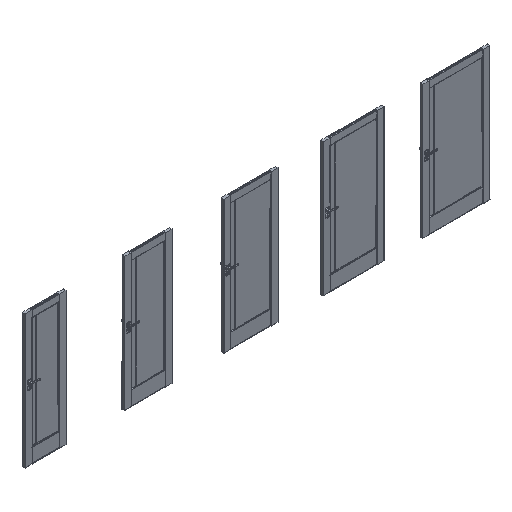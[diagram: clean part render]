
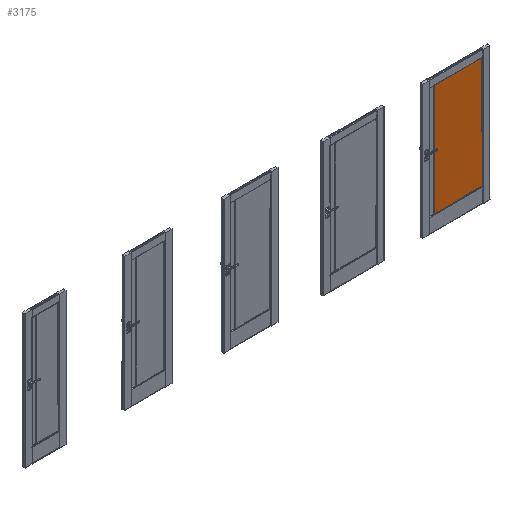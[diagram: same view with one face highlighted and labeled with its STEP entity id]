
A CAD part, isometric view. The second image highlights one B-rep face of the part: STEP entity #3175.
In plain terms, the highlighted planar face has unit normal (0, -1, 0).
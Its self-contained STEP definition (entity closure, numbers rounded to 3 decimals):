
#3175=ADVANCED_FACE('',(#5175),#4325,.T.);
#4325=PLANE('',#24227);
#5175=FACE_OUTER_BOUND('',#6500,.T.);
#6500=EDGE_LOOP('',(#10173,#10174,#10175,#10176));
#10173=ORIENTED_EDGE('',*,*,#17475,.F.);
#10174=ORIENTED_EDGE('',*,*,#17476,.F.);
#10175=ORIENTED_EDGE('',*,*,#17477,.F.);
#10176=ORIENTED_EDGE('',*,*,#17478,.F.);
#14945=VERTEX_POINT('',#35566);
#14946=VERTEX_POINT('',#35567);
#14947=VERTEX_POINT('',#35569);
#14948=VERTEX_POINT('',#35571);
#17475=EDGE_CURVE('',#14945,#14946,#20332,.T.);
#17476=EDGE_CURVE('',#14947,#14945,#20333,.T.);
#17477=EDGE_CURVE('',#14948,#14947,#20334,.T.);
#17478=EDGE_CURVE('',#14946,#14948,#20335,.T.);
#20332=LINE('',#35565,#22287);
#20333=LINE('',#35568,#22288);
#20334=LINE('',#35570,#22289);
#20335=LINE('',#35572,#22290);
#22287=VECTOR('',#28303,1.);
#22288=VECTOR('',#28304,1.);
#22289=VECTOR('',#28305,1.);
#22290=VECTOR('',#28306,1.);
#24227=AXIS2_PLACEMENT_3D('',#35573,#28307,#28308);
#28303=DIRECTION('',(1.,0.,0.));
#28304=DIRECTION('',(0.,0.,1.));
#28305=DIRECTION('',(-1.,0.,0.));
#28306=DIRECTION('',(0.,0.,-1.));
#28307=DIRECTION('',(0.,-1.,0.));
#28308=DIRECTION('',(0.,0.,-1.));
#35565=CARTESIAN_POINT('',(4965.,-26.15,1912.));
#35566=CARTESIAN_POINT('',(5882.25,-26.15,1912.));
#35567=CARTESIAN_POINT('',(6603.,-26.15,1912.));
#35568=CARTESIAN_POINT('',(5882.25,-26.15,206.5));
#35569=CARTESIAN_POINT('',(5882.25,-26.15,220.));
#35570=CARTESIAN_POINT('',(4965.,-26.15,220.));
#35571=CARTESIAN_POINT('',(6603.,-26.15,220.));
#35572=CARTESIAN_POINT('',(6603.,-26.15,166.919));
#35573=CARTESIAN_POINT('',(5882.25,-26.15,206.5));
